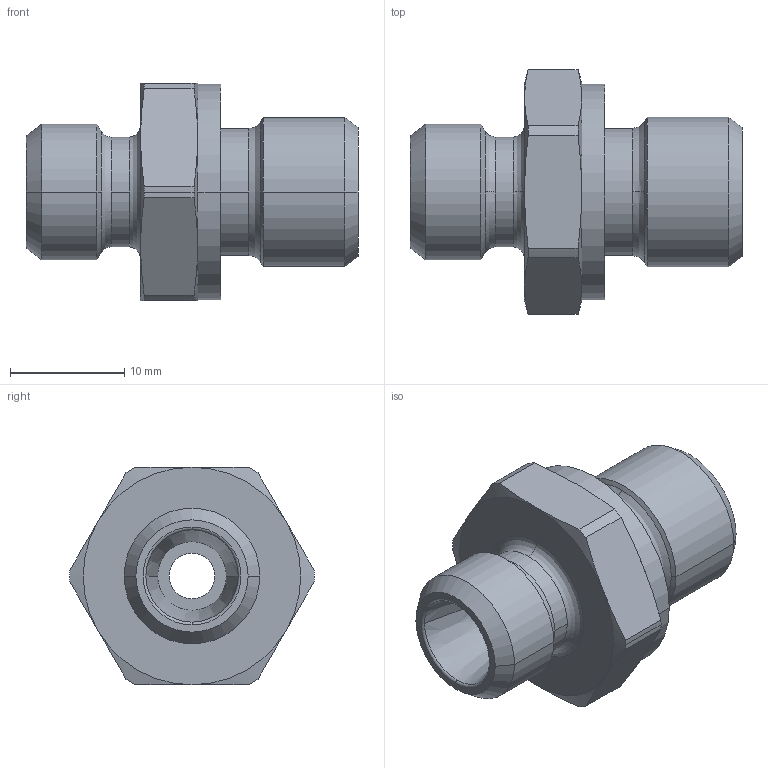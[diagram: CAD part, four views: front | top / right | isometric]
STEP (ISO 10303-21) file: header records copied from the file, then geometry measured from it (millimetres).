
FILE_DESCRIPTION((''),'2;1');
FILE_NAME('100524.stp','2007-10-30T14:18:40',(''),(''),'AutoCAD STEP 2000i','AutoCAD 2000i',', , ');
FILE_SCHEMA(('CONFIG_CONTROL_DESIGN'));
Length unit declared in the file: millimetre
Products named in the file (2): 100524.0; CHIAVE SMUSSATA#0
Assembly tree (1 placements, depth 2):
  100524.0
    CHIAVE SMUSSATA#0
Bounding box: 29 x 21.4 x 19 mm (x, y, z)
Volume: 3794.4 mm3; surface area: 2383.9 mm2
Topology: 1 solids, 1 shells, 75 faces, 185 edges, 117 vertices
Faces by surface type: cylinder 24, cone 24, plane 13, bspline 12, torus 2
Entity records: 2835 total; most frequent: CARTESIAN_POINT 955, DIRECTION 410, ORIENTED_EDGE 370, EDGE_CURVE 185, AXIS2_PLACEMENT_3D 184, CIRCLE 119, VERTEX_POINT 117, EDGE_LOOP 82
